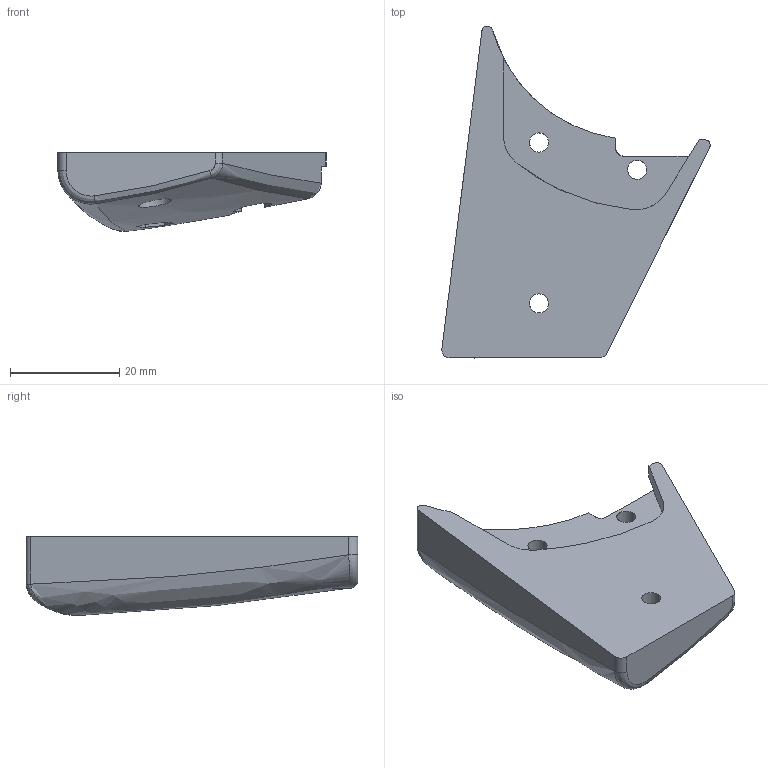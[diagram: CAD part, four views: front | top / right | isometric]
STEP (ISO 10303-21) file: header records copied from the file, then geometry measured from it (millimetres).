
FILE_DESCRIPTION(/* description */ (''),/* implementation_level */ '2;1');
FILE_NAME(/* name */ 'GRIP-1~1',/* time_stamp */ '2015-10-29T16:58:36+09:00',/* author */ (''),/* organization */ (''),/* preprocessor_version */ 'ST-DEVELOPER v15',/* originating_system */ '',/* authorisation */ '');
FILE_SCHEMA (('CONFIG_CONTROL_DESIGN'));
Length unit declared in the file: millimetre
Products named in the file (1): Document
Bounding box: 49.18 x 60.85 x 14.46 mm (x, y, z)
Volume: 15192.8 mm3; surface area: 5427.1 mm2
Topology: 1 solids, 1 shells, 53 faces, 140 edges, 91 vertices
Faces by surface type: bspline 36, plane 17
Entity records: 2438 total; most frequent: CARTESIAN_POINT 1511, ORIENTED_EDGE 280, EDGE_CURVE 140, VERTEX_POINT 91, B_SPLINE_CURVE_WITH_KNOTS 90, EDGE_LOOP 61, ADVANCED_FACE 53, FACE_OUTER_BOUND 53
